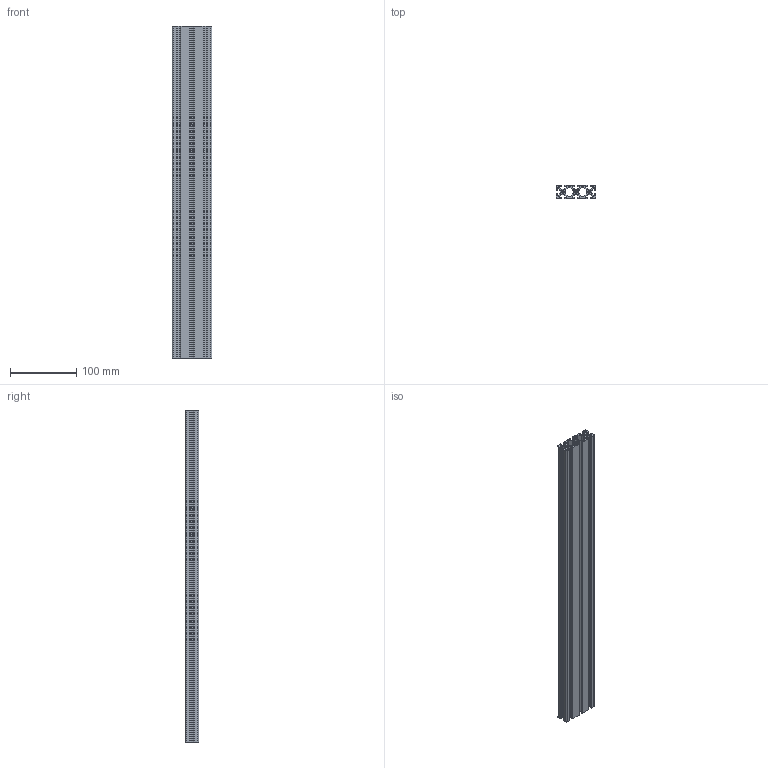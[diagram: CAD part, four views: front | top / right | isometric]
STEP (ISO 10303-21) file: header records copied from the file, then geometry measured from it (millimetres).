
FILE_DESCRIPTION (( 'STEP AP203' ), '1' );
FILE_NAME ('PP4050-500-Rollco.step', '2026-05-05T08:46:01', ( '' ), ( '' ), 'SwSTEP 2.0', 'SolidWorks 2014', '' );
FILE_SCHEMA (( 'CONFIG_CONTROL_DESIGN' ));
Length unit declared in the file: millimetre
Products named in the file (1): PP4050-500-Rollco
Bounding box: 60 x 20 x 500 mm (x, y, z)
Volume: 239773 mm3; surface area: 221741.9 mm2
Topology: 1 solids, 1 shells, 174 faces, 516 edges, 344 vertices
Faces by surface type: cylinder 92, plane 82
Entity records: 5981 total; most frequent: DIRECTION 1050, CARTESIAN_POINT 1035, ORIENTED_EDGE 1032, EDGE_CURVE 516, AXIS2_PLACEMENT_3D 359, VERTEX_POINT 344, LINE 332, VECTOR 332
